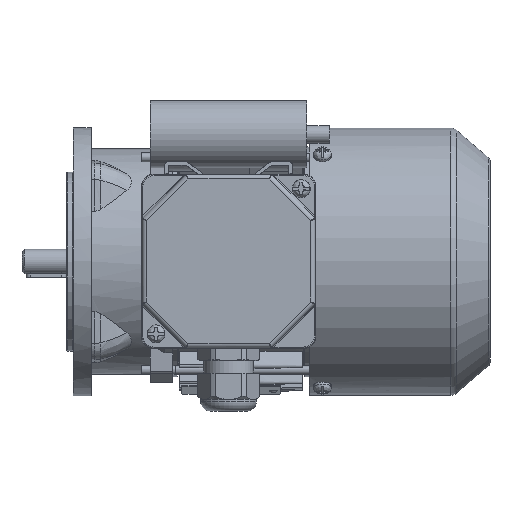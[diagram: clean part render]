
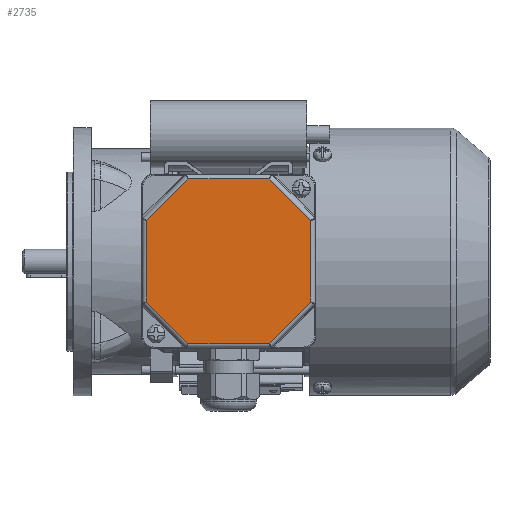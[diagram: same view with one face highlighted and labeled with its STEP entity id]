
A CAD part, top view. The second image highlights one B-rep face of the part: STEP entity #2735.
In plain terms, the highlighted planar face has unit normal (0, 0, 1).
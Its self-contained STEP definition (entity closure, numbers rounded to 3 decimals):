
#2735 = ADVANCED_FACE( '', ( #6490 ), #6491, .T. );
#6490 = FACE_OUTER_BOUND( '', #12378, .T. );
#6491 = PLANE( '', #12379 );
#12378 = EDGE_LOOP( '', ( #27703, #27704, #27705, #27706, #27707, #27708, #27709, #27710 ) );
#12379 = AXIS2_PLACEMENT_3D( '', #27711, #27712, #27713 );
#27703 = ORIENTED_EDGE( '', *, *, #42679, .T. );
#27704 = ORIENTED_EDGE( '', *, *, #42680, .T. );
#27705 = ORIENTED_EDGE( '', *, *, #42681, .T. );
#27706 = ORIENTED_EDGE( '', *, *, #42682, .T. );
#27707 = ORIENTED_EDGE( '', *, *, #42683, .T. );
#27708 = ORIENTED_EDGE( '', *, *, #42481, .T. );
#27709 = ORIENTED_EDGE( '', *, *, #42684, .T. );
#27710 = ORIENTED_EDGE( '', *, *, #42685, .T. );
#27711 = CARTESIAN_POINT( '', ( -39., 39., 12. ) );
#27712 = DIRECTION( '', ( 0., 0., 1. ) );
#27713 = DIRECTION( '', ( 1., 0., 0. ) );
#42481 = EDGE_CURVE( '', #50093, #50094, #50095, .T. );
#42679 = EDGE_CURVE( '', #50433, #49697, #50434, .F. );
#42680 = EDGE_CURVE( '', #49697, #50435, #50436, .T. );
#42681 = EDGE_CURVE( '', #50435, #50437, #50438, .F. );
#42682 = EDGE_CURVE( '', #50437, #50439, #50440, .T. );
#42683 = EDGE_CURVE( '', #50439, #50093, #50441, .F. );
#42684 = EDGE_CURVE( '', #50094, #50442, #50443, .F. );
#42685 = EDGE_CURVE( '', #50442, #50433, #50444, .T. );
#49697 = VERTEX_POINT( '', #59488 );
#50093 = VERTEX_POINT( '', #60203 );
#50094 = VERTEX_POINT( '', #60204 );
#50095 = LINE( '', #60205, #60206 );
#50433 = VERTEX_POINT( '', #60881 );
#50434 = LINE( '', #60882, #60883 );
#50435 = VERTEX_POINT( '', #60884 );
#50436 = LINE( '', #60885, #60886 );
#50437 = VERTEX_POINT( '', #60887 );
#50438 = LINE( '', #60888, #60889 );
#50439 = VERTEX_POINT( '', #60890 );
#50440 = LINE( '', #60891, #60892 );
#50441 = LINE( '', #60893, #60894 );
#50442 = VERTEX_POINT( '', #60895 );
#50443 = LINE( '', #60896, #60897 );
#50444 = LINE( '', #60898, #60899 );
#59488 = CARTESIAN_POINT( '', ( 36.825, 18.255, 12. ) );
#60203 = CARTESIAN_POINT( '', ( -36.825, -18.255, 12. ) );
#60204 = CARTESIAN_POINT( '', ( -18.255, -36.825, 12. ) );
#60205 = CARTESIAN_POINT( '', ( -17.679, -37.401, 12. ) );
#60206 = VECTOR( '', #79045, 1000. );
#60881 = CARTESIAN_POINT( '', ( 36.825, -18.255, 12. ) );
#60882 = CARTESIAN_POINT( '', ( 36.825, 19.069, 12. ) );
#60883 = VECTOR( '', #79279, 1000. );
#60884 = CARTESIAN_POINT( '', ( 18.255, 36.825, 12. ) );
#60885 = CARTESIAN_POINT( '', ( 17.679, 37.401, 12. ) );
#60886 = VECTOR( '', #79280, 1000. );
#60887 = CARTESIAN_POINT( '', ( -18.255, 36.825, 12. ) );
#60888 = CARTESIAN_POINT( '', ( -19.069, 36.825, 12. ) );
#60889 = VECTOR( '', #79281, 1000. );
#60890 = CARTESIAN_POINT( '', ( -36.825, 18.255, 12. ) );
#60891 = CARTESIAN_POINT( '', ( -37.401, 17.679, 12. ) );
#60892 = VECTOR( '', #79282, 1000. );
#60893 = CARTESIAN_POINT( '', ( -36.825, -19.069, 12. ) );
#60894 = VECTOR( '', #79283, 1000. );
#60895 = CARTESIAN_POINT( '', ( 18.255, -36.825, 12. ) );
#60896 = CARTESIAN_POINT( '', ( 19.069, -36.825, 12. ) );
#60897 = VECTOR( '', #79284, 1000. );
#60898 = CARTESIAN_POINT( '', ( 37.401, -17.679, 12. ) );
#60899 = VECTOR( '', #79285, 1000. );
#79045 = DIRECTION( '', ( 0.707, -0.707, 0. ) );
#79279 = DIRECTION( '', ( 0., -1., 0. ) );
#79280 = DIRECTION( '', ( -0.707, 0.707, 0. ) );
#79281 = DIRECTION( '', ( 1., 0., 0. ) );
#79282 = DIRECTION( '', ( -0.707, -0.707, 0. ) );
#79283 = DIRECTION( '', ( 0., 1., 0. ) );
#79284 = DIRECTION( '', ( -1., 0., 0. ) );
#79285 = DIRECTION( '', ( 0.707, 0.707, 0. ) );
